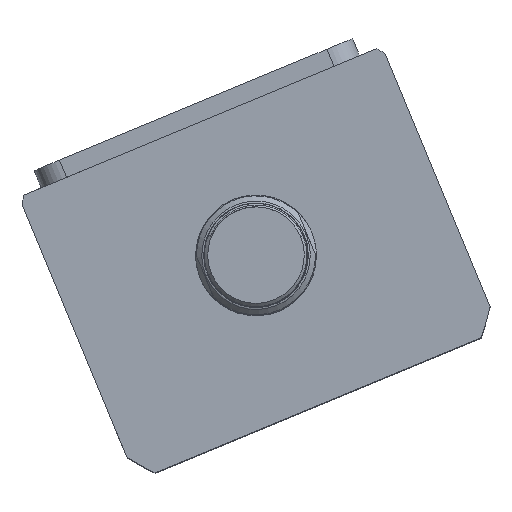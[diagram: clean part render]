
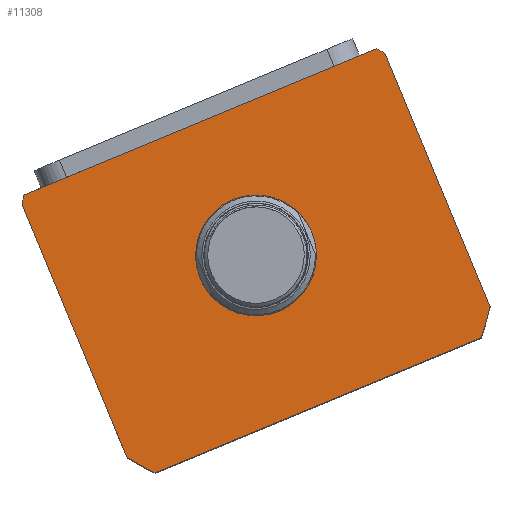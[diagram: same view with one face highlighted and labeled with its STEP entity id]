
A CAD part, top view. The second image highlights one B-rep face of the part: STEP entity #11308.
In plain terms, the highlighted planar face has unit normal (0, 0, 1) as drawn and (0, 0, -1) by its records, which use the part's own axes.
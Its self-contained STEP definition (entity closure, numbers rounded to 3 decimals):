
#628 = CARTESIAN_POINT ( 'NONE',  ( -57., -37.265, 0. ) ) ;
#1315 = CARTESIAN_POINT ( 'NONE',  ( 0., 2.5, 0. ) ) ;
#1353 = AXIS2_PLACEMENT_3D ( 'NONE', #1315, #16589, #3521 ) ;
#1611 = VECTOR ( 'NONE', #27549, 1000. ) ;
#1638 = DIRECTION ( 'NONE',  ( 1., 0., 0. ) ) ;
#1706 = ORIENTED_EDGE ( 'NONE', *, *, #26615, .F. ) ;
#2169 = AXIS2_PLACEMENT_3D ( 'NONE', #27659, #14742, #1638 ) ;
#2448 = CARTESIAN_POINT ( 'NONE',  ( 51.198, -44.5, 0. ) ) ;
#2599 = CARTESIAN_POINT ( 'NONE',  ( -57., 42.265, 0. ) ) ;
#3521 = DIRECTION ( 'NONE',  ( 1., 0., 0. ) ) ;
#3984 = DIRECTION ( 'NONE',  ( 0., 0., 1. ) ) ;
#4018 = CARTESIAN_POINT ( 'NONE',  ( 0., 0., 0. ) ) ;
#4146 = CARTESIAN_POINT ( 'NONE',  ( -57., 44.5, 0. ) ) ;
#4399 = CARTESIAN_POINT ( 'NONE',  ( 0., 2.5, 0. ) ) ;
#4487 = EDGE_LOOP ( 'NONE', ( #21751, #25132, #27801, #1706, #5441, #7872, #12274, #15355 ) ) ;
#5239 = CIRCLE ( 'NONE', #2169, 17.5 ) ;
#5441 = ORIENTED_EDGE ( 'NONE', *, *, #10651, .F. ) ;
#5547 = AXIS2_PLACEMENT_3D ( 'NONE', #7985, #23142, #10170 ) ;
#5721 = EDGE_CURVE ( 'NONE', #11606, #13517, #12810, .T. ) ;
#6031 = CIRCLE ( 'NONE', #26914, 69.5 ) ;
#6092 = EDGE_CURVE ( 'NONE', #16652, #27846, #14505, .T. ) ;
#6228 = DIRECTION ( 'NONE',  ( 0., 0., 1. ) ) ;
#6361 = DIRECTION ( 'NONE',  ( 0., -1., 0. ) ) ;
#6428 = VERTEX_POINT ( 'NONE', #2599 ) ;
#6541 = CARTESIAN_POINT ( 'NONE',  ( 57., 44.5, 0. ) ) ;
#6614 = DIRECTION ( 'NONE',  ( 1., 0., 0. ) ) ;
#6825 = DIRECTION ( 'NONE',  ( 0., 1., 0. ) ) ;
#7698 = VECTOR ( 'NONE', #6825, 1000. ) ;
#7872 = ORIENTED_EDGE ( 'NONE', *, *, #27521, .F. ) ;
#7985 = CARTESIAN_POINT ( 'NONE',  ( 0., 2.5, 0. ) ) ;
#8830 = CARTESIAN_POINT ( 'NONE',  ( -57., 44.5, 0. ) ) ;
#9395 = DIRECTION ( 'NONE',  ( 0., 0., 1. ) ) ;
#10118 = FACE_BOUND ( 'NONE', #17754, .T. ) ;
#10170 = DIRECTION ( 'NONE',  ( 1., 0., 0. ) ) ;
#10482 = CARTESIAN_POINT ( 'NONE',  ( 57., 42.265, 0. ) ) ;
#10651 = EDGE_CURVE ( 'NONE', #13076, #11402, #6031, .T. ) ;
#10815 = EDGE_CURVE ( 'NONE', #16048, #23090, #16289, .T. ) ;
#11308 = ADVANCED_FACE ( 'NONE', ( #10118, #21639 ), #16994, .F. ) ;
#11402 = VERTEX_POINT ( 'NONE', #21603 ) ;
#11492 = CARTESIAN_POINT ( 'NONE',  ( -55.374, 44.5, 0. ) ) ;
#11514 = VECTOR ( 'NONE', #6361, 1000. ) ;
#11606 = VERTEX_POINT ( 'NONE', #17921 ) ;
#12274 = ORIENTED_EDGE ( 'NONE', *, *, #22863, .F. ) ;
#12810 = LINE ( 'NONE', #8830, #23625 ) ;
#13076 = VERTEX_POINT ( 'NONE', #628 ) ;
#13333 = AXIS2_PLACEMENT_3D ( 'NONE', #22370, #9395, #24556 ) ;
#13411 = EDGE_CURVE ( 'NONE', #27846, #26808, #13481, .T. ) ;
#13481 = LINE ( 'NONE', #6541, #7698 ) ;
#13517 = VERTEX_POINT ( 'NONE', #11492 ) ;
#13696 = CARTESIAN_POINT ( 'NONE',  ( 57., -37.265, 0. ) ) ;
#14505 = CIRCLE ( 'NONE', #24663, 69.5 ) ;
#14742 = DIRECTION ( 'NONE',  ( 0., 0., 1. ) ) ;
#15355 = ORIENTED_EDGE ( 'NONE', *, *, #5721, .F. ) ;
#16048 = VERTEX_POINT ( 'NONE', #20045 ) ;
#16289 = CIRCLE ( 'NONE', #13333, 17.5 ) ;
#16589 = DIRECTION ( 'NONE',  ( 0., 0., 1. ) ) ;
#16652 = VERTEX_POINT ( 'NONE', #2448 ) ;
#16684 = ORIENTED_EDGE ( 'NONE', *, *, #10815, .T. ) ;
#16994 = PLANE ( 'NONE',  #20034 ) ;
#17001 = CIRCLE ( 'NONE', #1353, 69.5 ) ;
#17052 = CARTESIAN_POINT ( 'NONE',  ( 0., 2.5, 0. ) ) ;
#17754 = EDGE_LOOP ( 'NONE', ( #16684, #20374 ) ) ;
#17921 = CARTESIAN_POINT ( 'NONE',  ( 55.374, 44.5, 0. ) ) ;
#18150 = EDGE_CURVE ( 'NONE', #23090, #16048, #5239, .T. ) ;
#18391 = CIRCLE ( 'NONE', #5547, 69.5 ) ;
#19203 = DIRECTION ( 'NONE',  ( 1., 0., 0. ) ) ;
#19616 = DIRECTION ( 'NONE',  ( 0., 0., 1. ) ) ;
#19664 = LINE ( 'NONE', #25392, #1611 ) ;
#20034 = AXIS2_PLACEMENT_3D ( 'NONE', #4018, #6228, #21414 ) ;
#20045 = CARTESIAN_POINT ( 'NONE',  ( 17.5, 2.5, 0. ) ) ;
#20374 = ORIENTED_EDGE ( 'NONE', *, *, #18150, .T. ) ;
#21414 = DIRECTION ( 'NONE',  ( 1., 0., 0. ) ) ;
#21597 = CARTESIAN_POINT ( 'NONE',  ( -17.5, 2.5, 0. ) ) ;
#21603 = CARTESIAN_POINT ( 'NONE',  ( -51.198, -44.5, 0. ) ) ;
#21639 = FACE_OUTER_BOUND ( 'NONE', #4487, .T. ) ;
#21751 = ORIENTED_EDGE ( 'NONE', *, *, #25373, .F. ) ;
#22370 = CARTESIAN_POINT ( 'NONE',  ( 0., 2.5, 0. ) ) ;
#22863 = EDGE_CURVE ( 'NONE', #13517, #6428, #18391, .T. ) ;
#23039 = LINE ( 'NONE', #4146, #11514 ) ;
#23090 = VERTEX_POINT ( 'NONE', #21597 ) ;
#23142 = DIRECTION ( 'NONE',  ( 0., 0., 1. ) ) ;
#23625 = VECTOR ( 'NONE', #26164, 1000. ) ;
#24556 = DIRECTION ( 'NONE',  ( 1., 0., 0. ) ) ;
#24663 = AXIS2_PLACEMENT_3D ( 'NONE', #4399, #19616, #6614 ) ;
#25132 = ORIENTED_EDGE ( 'NONE', *, *, #13411, .F. ) ;
#25373 = EDGE_CURVE ( 'NONE', #26808, #11606, #17001, .T. ) ;
#25392 = CARTESIAN_POINT ( 'NONE',  ( -57., -44.5, 0. ) ) ;
#26164 = DIRECTION ( 'NONE',  ( -1., 0., 0. ) ) ;
#26615 = EDGE_CURVE ( 'NONE', #11402, #16652, #19664, .T. ) ;
#26808 = VERTEX_POINT ( 'NONE', #10482 ) ;
#26914 = AXIS2_PLACEMENT_3D ( 'NONE', #17052, #3984, #19203 ) ;
#27521 = EDGE_CURVE ( 'NONE', #6428, #13076, #23039, .T. ) ;
#27549 = DIRECTION ( 'NONE',  ( 1., 0., 0. ) ) ;
#27659 = CARTESIAN_POINT ( 'NONE',  ( 0., 2.5, 0. ) ) ;
#27801 = ORIENTED_EDGE ( 'NONE', *, *, #6092, .F. ) ;
#27846 = VERTEX_POINT ( 'NONE', #13696 ) ;
